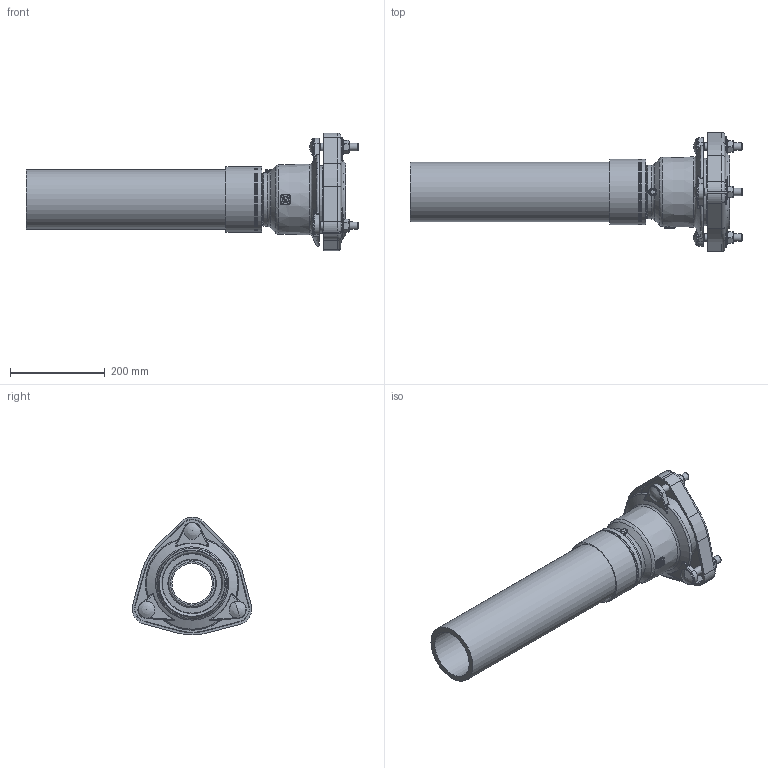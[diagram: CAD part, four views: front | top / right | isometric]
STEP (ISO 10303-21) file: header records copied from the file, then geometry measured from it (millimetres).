
FILE_DESCRIPTION((''),'2;1');
FILE_NAME('P:\Fastrack\54361_VIKING JOHNSON 3D\ULTRAGRIP\Component Parts\Components Built up\Pecatadaptor\100MMx125SDR11-UltraGrip-Pecat-Adaptor.stp','2012-05-09T09:57:42',('dcole'),(''),'Autodesk Inventor 2008','Autodesk Inventor 2008','');
FILE_SCHEMA(('AUTOMOTIVE_DESIGN { 1 0 10303 214 1 1 1 1 }'));
Length unit declared in the file: millimetre
Products named in the file (1): 100MMx125SDR11-UltraGrip-Pecat-Adaptor
Bounding box: 699 x 252.11 x 248.29 mm (x, y, z)
Volume: 3403125.6 mm3; surface area: 753619 mm2
Topology: 1 solids, 1 shells, 554 faces, 1394 edges, 869 vertices
Faces by surface type: cylinder 178, plane 169, bspline 102, cone 64, torus 41
Full cylindrical faces by diameter (mm): 13 x1, 15.7 x6, 16 x3, 30 x3, 35.2 x3, 85 x1, 102.2 x1, 125 x2, 127.1 x2, 132.7 x1, 133.7 x1, 134.7 x1, 138.25 x3, 141.7 x1, 142.7 x1
Entity records: 28114 total; most frequent: CARTESIAN_POINT 15271, ORIENTED_EDGE 2556, DIRECTION 2444, EDGE_CURVE 1278, AXIS2_PLACEMENT_3D 990, VERTEX_POINT 829, EDGE_LOOP 661, STYLED_ITEM 553
